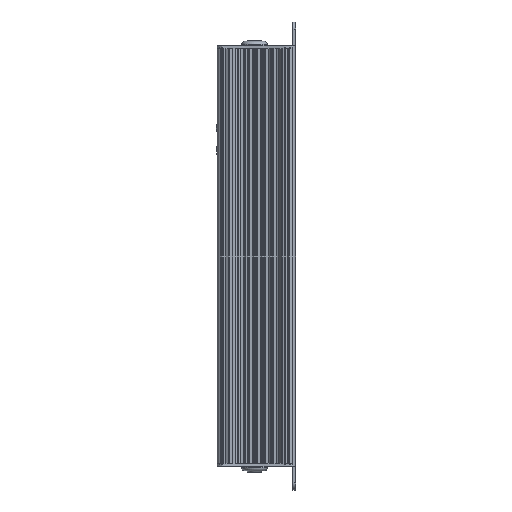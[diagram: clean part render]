
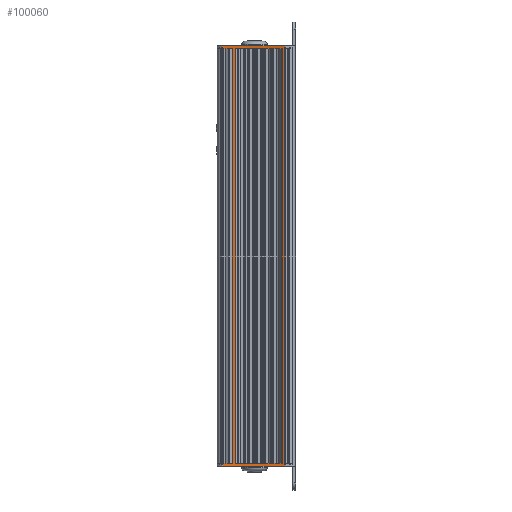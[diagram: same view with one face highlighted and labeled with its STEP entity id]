
A CAD part, left-side view. The second image highlights one B-rep face of the part: STEP entity #100060.
In plain terms, the highlighted cylindrical face has radius 107.626 mm (diameter 215.252 mm), a partial arc.
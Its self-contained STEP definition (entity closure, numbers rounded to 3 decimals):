
#26590=CARTESIAN_POINT('',(1826.916,-2407.829,311.4));
#26600=VERTEX_POINT('',#26590);
#26870=CARTESIAN_POINT('',(1826.916,-2407.829,
79.4));
#26880=VERTEX_POINT('',#26870);
#30760=CARTESIAN_POINT('',(1827.828,-2437.217,77.8));
#30770=VERTEX_POINT('',#30760);
#30950=CARTESIAN_POINT('',(1827.828,-2437.217,79.4));
#30960=VERTEX_POINT('',#30950);
#30990=CARTESIAN_POINT('',(1827.828,-2437.217,
85.9));
#31000=DIRECTION('',(0.,0.,-1.));
#31010=VECTOR('',#31000,1.);
#31020=LINE('',#30990,#31010);
#31030=EDGE_CURVE('',#30960,#30770,#31020,.T.);
#31180=CARTESIAN_POINT('',(1827.64,-2402.362,77.8));
#31190=VERTEX_POINT('',#31180);
#31220=CARTESIAN_POINT('',(1827.64,-2402.362,
85.9));
#31230=DIRECTION('',(0.,0.,-1.));
#31240=VECTOR('',#31230,1.);
#31250=LINE('',#31220,#31240);
#31260=CARTESIAN_POINT('',(1827.64,-2402.362,
79.4));
#31270=VERTEX_POINT('',#31260);
#31280=EDGE_CURVE('',#31270,#31190,#31250,.T.);
#42410=CARTESIAN_POINT('',(1827.537,-2403.02,
79.4));
#42420=VERTEX_POINT('',#42410);
#42450=CARTESIAN_POINT('',(1933.938,-2419.215,79.4));
#42460=DIRECTION('',(0.,0.,-1.));
#42470=DIRECTION('',(-1.,0.,0.));
#42480=AXIS2_PLACEMENT_3D('',#42450,#42460,#42470);
#42490=CIRCLE('',#42480,107.626);
#42500=CARTESIAN_POINT('',(1827.133,-2405.946,
79.4));
#42510=VERTEX_POINT('',#42500);
#42520=EDGE_CURVE('',#42510,#42420,#42490,.T.);
#42890=CARTESIAN_POINT('',(1826.885,-2408.12,
79.4));
#42900=VERTEX_POINT('',#42890);
#42910=EDGE_CURVE('',#42900,#26880,#42490,.T.);
#43510=CARTESIAN_POINT('',(1826.716,-2409.9,
79.4));
#43520=VERTEX_POINT('',#43510);
#43550=CARTESIAN_POINT('',(1826.315,-2420.,
79.4));
#43560=VERTEX_POINT('',#43550);
#43570=EDGE_CURVE('',#43560,#43520,#42490,.T.);
#44450=CARTESIAN_POINT('',(1826.324,-2420.791,
79.4));
#44460=VERTEX_POINT('',#44450);
#44490=CARTESIAN_POINT('',(1826.443,-2424.531,
79.4));
#44500=VERTEX_POINT('',#44490);
#44510=EDGE_CURVE('',#44500,#44460,#42490,.T.);
#45120=CARTESIAN_POINT('',(1826.485,-2425.316,
79.4));
#45130=VERTEX_POINT('',#45120);
#45160=CARTESIAN_POINT('',(1826.763,-2429.061,
79.4));
#45170=VERTEX_POINT('',#45160);
#45180=EDGE_CURVE('',#45170,#45130,#42490,.T.);
#45790=CARTESIAN_POINT('',(1826.837,-2429.835,
79.4));
#45800=VERTEX_POINT('',#45790);
#45830=CARTESIAN_POINT('',(1827.613,-2435.898,
79.4));
#45840=VERTEX_POINT('',#45830);
#45850=EDGE_CURVE('',#45840,#45800,#42490,.T.);
#46560=CARTESIAN_POINT('',(1827.811,-2437.118,
79.4));
#46570=VERTEX_POINT('',#46560);
#46600=EDGE_CURVE('',#30960,#46570,#42490,.T.);
#54130=CARTESIAN_POINT('',(1827.133,-2405.946,311.4));
#54140=VERTEX_POINT('',#54130);
#54270=CARTESIAN_POINT('',(1933.938,-2419.215,
311.4));
#54280=DIRECTION('',(0.,0.,-1.));
#54290=DIRECTION('',(-1.,0.,0.));
#54300=AXIS2_PLACEMENT_3D('',#54270,#54280,#54290);
#54310=CIRCLE('',#54300,107.626);
#54320=EDGE_CURVE('',#26600,#54140,#54310,.T.);
#72330=CARTESIAN_POINT('',(1826.885,-2408.12,311.4));
#72340=VERTEX_POINT('',#72330);
#72390=CARTESIAN_POINT('',(1826.885,-2408.12,
85.9));
#72400=DIRECTION('',(0.,0.,-1.));
#72410=VECTOR('',#72400,1.);
#72420=LINE('',#72390,#72410);
#72430=EDGE_CURVE('',#72340,#42900,#72420,.T.);
#85180=CARTESIAN_POINT('',(1933.938,-2419.215,
79.4));
#85190=DIRECTION('',(0.,0.,-1.));
#85200=DIRECTION('',(-1.,0.,0.));
#85210=AXIS2_PLACEMENT_3D('',#85180,#85190,#85200);
#85220=CIRCLE('',#85210,107.626);
#85230=EDGE_CURVE('',#26880,#42510,#85220,.T.);
#96630=EDGE_CURVE('',#42420,#31270,#85220,.T.);
#97370=CARTESIAN_POINT('',(1827.537,-2403.02,311.4));
#97380=VERTEX_POINT('',#97370);
#98810=CARTESIAN_POINT('',(1933.938,-2419.215,
85.9));
#98820=DIRECTION('',(0.,0.,-1.));
#98830=DIRECTION('',(-1.,0.,0.));
#98840=AXIS2_PLACEMENT_3D('',#98810,#98820,#98830);
#98850=CYLINDRICAL_SURFACE('',#98840,107.626);
#98860=ORIENTED_EDGE('',*,*,#45850,.F.);
#98870=EDGE_CURVE('',#45800,#45170,#85220,.T.);
#98880=ORIENTED_EDGE('',*,*,#98870,.F.);
#98890=ORIENTED_EDGE('',*,*,#45180,.F.);
#98900=EDGE_CURVE('',#45130,#44500,#85220,.T.);
#98910=ORIENTED_EDGE('',*,*,#98900,.F.);
#98920=ORIENTED_EDGE('',*,*,#44510,.F.);
#98930=EDGE_CURVE('',#44460,#43560,#85220,.T.);
#98940=ORIENTED_EDGE('',*,*,#98930,.F.);
#98950=ORIENTED_EDGE('',*,*,#43570,.F.);
#98960=CARTESIAN_POINT('',(1826.716,-2409.9,
85.9));
#98970=DIRECTION('',(0.,0.,-1.));
#98980=VECTOR('',#98970,1.);
#98990=LINE('',#98960,#98980);
#99000=CARTESIAN_POINT('',(1826.716,-2409.9,311.4));
#99010=VERTEX_POINT('',#99000);
#99020=EDGE_CURVE('',#99010,#43520,#98990,.T.);
#99030=ORIENTED_EDGE('',*,*,#99020,.T.);
#99040=CARTESIAN_POINT('',(1933.938,-2419.215,311.4));
#99050=DIRECTION('',(0.,0.,-1.));
#99060=DIRECTION('',(-1.,0.,0.));
#99070=AXIS2_PLACEMENT_3D('',#99040,#99050,#99060);
#99080=CIRCLE('',#99070,107.626);
#99090=CARTESIAN_POINT('',(1826.315,-2420.,311.4));
#99100=VERTEX_POINT('',#99090);
#99110=EDGE_CURVE('',#99100,#99010,#99080,.T.);
#99120=ORIENTED_EDGE('',*,*,#99110,.T.);
#99130=CARTESIAN_POINT('',(1826.323,-2420.791,311.4));
#99140=VERTEX_POINT('',#99130);
#99150=EDGE_CURVE('',#99140,#99100,#54310,.T.);
#99160=ORIENTED_EDGE('',*,*,#99150,.T.);
#99170=CARTESIAN_POINT('',(1826.443,-2424.531,311.4));
#99180=VERTEX_POINT('',#99170);
#99190=EDGE_CURVE('',#99180,#99140,#99080,.T.);
#99200=ORIENTED_EDGE('',*,*,#99190,.T.);
#99210=CARTESIAN_POINT('',(1826.485,-2425.316,311.4));
#99220=VERTEX_POINT('',#99210);
#99230=EDGE_CURVE('',#99220,#99180,#54310,.T.);
#99240=ORIENTED_EDGE('',*,*,#99230,.T.);
#99250=CARTESIAN_POINT('',(1826.763,-2429.061,311.4));
#99260=VERTEX_POINT('',#99250);
#99270=EDGE_CURVE('',#99260,#99220,#99080,.T.);
#99280=ORIENTED_EDGE('',*,*,#99270,.T.);
#99290=CARTESIAN_POINT('',(1826.837,-2429.835,311.4));
#99300=VERTEX_POINT('',#99290);
#99310=EDGE_CURVE('',#99300,#99260,#54310,.T.);
#99320=ORIENTED_EDGE('',*,*,#99310,.T.);
#99330=CARTESIAN_POINT('',(1827.613,-2435.898,311.4));
#99340=VERTEX_POINT('',#99330);
#99350=EDGE_CURVE('',#99340,#99300,#99080,.T.);
#99360=ORIENTED_EDGE('',*,*,#99350,.T.);
#99370=CARTESIAN_POINT('',(1827.613,-2435.898,
85.9));
#99380=DIRECTION('',(0.,0.,-1.));
#99390=VECTOR('',#99380,1.);
#99400=LINE('',#99370,#99390);
#99410=EDGE_CURVE('',#99340,#45840,#99400,.T.);
#99420=ORIENTED_EDGE('',*,*,#99410,.F.);
#99430=EDGE_LOOP('',(#99420,#99360,#99320,#99280,#99240,#99200,#99160,
#99120,#99030,#98950,#98940,#98920,#98910,#98890,#98880,#98860));
#99440=FACE_BOUND('',#99430,.T.);
#99450=CARTESIAN_POINT('',(1827.828,-2437.217,311.4));
#99460=VERTEX_POINT('',#99450);
#99470=CARTESIAN_POINT('',(1827.811,-2437.118,311.4));
#99480=VERTEX_POINT('',#99470);
#99490=EDGE_CURVE('',#99460,#99480,#99080,.T.);
#99500=ORIENTED_EDGE('',*,*,#99490,.T.);
#99510=CARTESIAN_POINT('',(1827.828,-2437.217,
85.9));
#99520=DIRECTION('',(0.,0.,-1.));
#99530=VECTOR('',#99520,1.);
#99540=LINE('',#99510,#99530);
#99550=CARTESIAN_POINT('',(1827.828,-2437.217,313.));
#99560=VERTEX_POINT('',#99550);
#99570=EDGE_CURVE('',#99560,#99460,#99540,.T.);
#99580=ORIENTED_EDGE('',*,*,#99570,.T.);
#99590=CARTESIAN_POINT('',(1933.938,-2419.215,313.));
#99600=DIRECTION('',(0.,0.,-1.));
#99610=DIRECTION('',(-1.,0.,0.));
#99620=AXIS2_PLACEMENT_3D('',#99590,#99600,#99610);
#99630=CIRCLE('',#99620,107.626);
#99640=CARTESIAN_POINT('',(1827.636,-2402.387,313.));
#99650=VERTEX_POINT('',#99640);
#99660=EDGE_CURVE('',#99560,#99650,#99630,.T.);
#99670=ORIENTED_EDGE('',*,*,#99660,.F.);
#99680=CARTESIAN_POINT('',(1827.636,-2402.387,
85.9));
#99690=DIRECTION('',(0.,0.,-1.));
#99700=VECTOR('',#99690,1.);
#99710=LINE('',#99680,#99700);
#99720=CARTESIAN_POINT('',(1827.636,-2402.387,
311.4));
#99730=VERTEX_POINT('',#99720);
#99740=EDGE_CURVE('',#99650,#99730,#99710,.T.);
#99750=ORIENTED_EDGE('',*,*,#99740,.F.);
#99760=EDGE_CURVE('',#97380,#99730,#54310,.T.);
#99770=ORIENTED_EDGE('',*,*,#99760,.T.);
#99780=EDGE_CURVE('',#54140,#97380,#99080,.T.);
#99790=ORIENTED_EDGE('',*,*,#99780,.T.);
#99800=ORIENTED_EDGE('',*,*,#54320,.T.);
#99810=EDGE_CURVE('',#72340,#26600,#99080,.T.);
#99820=ORIENTED_EDGE('',*,*,#99810,.T.);
#99830=ORIENTED_EDGE('',*,*,#72430,.F.);
#99840=ORIENTED_EDGE('',*,*,#42910,.F.);
#99850=ORIENTED_EDGE('',*,*,#85230,.F.);
#99860=ORIENTED_EDGE('',*,*,#42520,.F.);
#99870=ORIENTED_EDGE('',*,*,#96630,.F.);
#99880=ORIENTED_EDGE('',*,*,#31280,.F.);
#99890=CARTESIAN_POINT('',(1933.938,-2419.215,77.8));
#99900=DIRECTION('',(0.,0.,-1.));
#99910=DIRECTION('',(-1.,0.,0.));
#99920=AXIS2_PLACEMENT_3D('',#99890,#99900,#99910);
#99930=CIRCLE('',#99920,107.626);
#99940=EDGE_CURVE('',#30770,#31190,#99930,.T.);
#99950=ORIENTED_EDGE('',*,*,#99940,.T.);
#99960=ORIENTED_EDGE('',*,*,#31030,.T.);
#99970=ORIENTED_EDGE('',*,*,#46600,.F.);
#99980=CARTESIAN_POINT('',(1827.811,-2437.118,
85.9));
#99990=DIRECTION('',(0.,0.,-1.));
#100000=VECTOR('',#99990,1.);
#100010=LINE('',#99980,#100000);
#100020=EDGE_CURVE('',#99480,#46570,#100010,.T.);
#100030=ORIENTED_EDGE('',*,*,#100020,.T.);
#100040=EDGE_LOOP('',(#100030,#99970,#99960,#99950,#99880,#99870,#99860,
#99850,#99840,#99830,#99820,#99800,#99790,#99770,#99750,#99670,#99580,
#99500));
#100050=FACE_OUTER_BOUND('',#100040,.T.);
#100060=ADVANCED_FACE('',(#99440,#100050),#98850,.F.);
